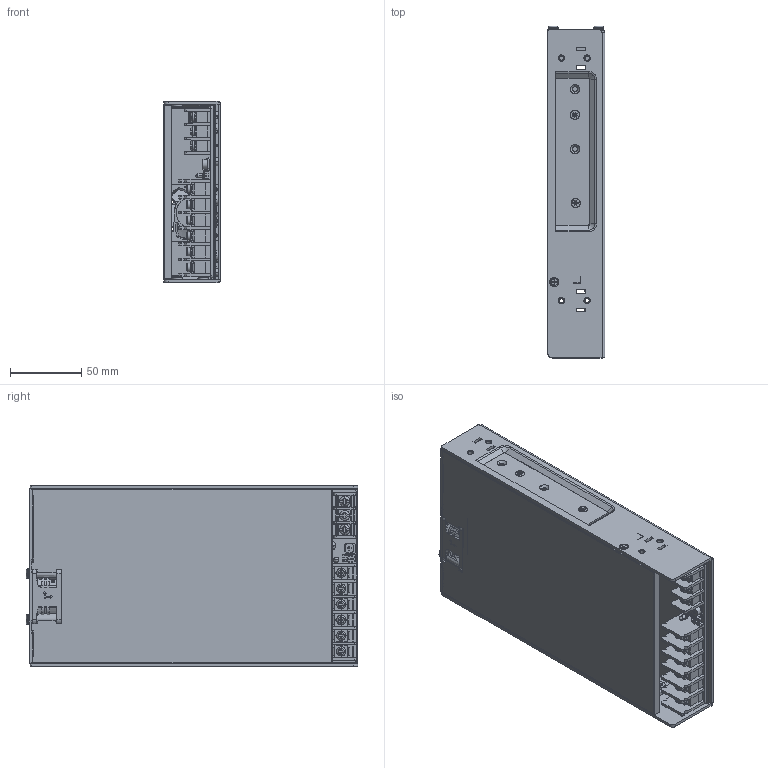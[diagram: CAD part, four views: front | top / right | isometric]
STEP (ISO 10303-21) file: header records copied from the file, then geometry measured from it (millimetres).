
FILE_DESCRIPTION(/* description */ (''),/* implementation_level */ '2;1');
FILE_NAME(/* name */ 'GSP550-1',/* time_stamp */ '2025-07-31T16:32:56+08:00',/* author */ (''),/* organization */ (''),/* preprocessor_version */ 'ST-DEVELOPER v16.5',/* originating_system */ '',/* authorisation */ '');
FILE_SCHEMA (('AUTOMOTIVE_DESIGN'));
Products named in the file (32): 01-ICPS-500W_ASM_38_ASM; CASE-500W_ASM_53_ASM; 21-366__ASM_31_ASM; 21-366__91; SCREW-M3__23; LZ_4X6_5_4; 21-365__ASM_36_ASM; 21-365__60; MYLAR-GPS500-TOP_24; SCREW-3004-R_4_9; LS_3-4_9; FAN-4020D_9; PCB-500W_ASM_109_ASM; PCB-500W_32; GW-GSP550W_V0220240204_ASM_2_ASM; PCB_ASM_16_ASM; LED1_ASM_10_ASM; LEDC2-2_54-3-1_11; CN2_ASM_10_ASM; PHD2_0_ASM_10_ASM; OPEN_CASCADE_STEP_TRANSL-214971; OPEN_CASCADE_STEP_TRANSL-219230; BHL5_03_10_00_12; BHP_5-6-11_0-08-T1-C_6; HS2-1_ASM_48_ASM; KM3X10_8; HS3-1_ASM_21_ASM; 1203377_CT_KM3X12_GB819-85_9; HS1-1_ASM_62_ASM; M3X6-S_GB9074_4_9; VR_1; MYLAR-GPS500_31
Assembly tree (40 placements, depth 7):
  01-ICPS-500W_ASM_38_ASM
    CASE-500W_ASM_53_ASM
      21-366__ASM_31_ASM
        21-366__91
        SCREW-M3__23  x3
        LZ_4X6_5_4
      21-365__ASM_36_ASM
        21-365__60
        MYLAR-GPS500-TOP_24
      SCREW-3004-R_4_9  x2
      LS_3-4_9  x2
      FAN-4020D_9
    PCB-500W_ASM_109_ASM
      PCB-500W_32
      GW-GSP550W_V0220240204_ASM_2_ASM
        PCB_ASM_16_ASM
          LED1_ASM_10_ASM
            LEDC2-2_54-3-1_11
          CN2_ASM_10_ASM
            PHD2_0_ASM_10_ASM
              OPEN_CASCADE_STEP_TRANSL-214971
              OPEN_CASCADE_STEP_TRANSL-219230
      BHL5_03_10_00_12
      BHP_5-6-11_0-08-T1-C_6
      HS2-1_ASM_48_ASM
        KM3X10_8
      HS3-1_ASM_21_ASM
        1203377_CT_KM3X12_GB819-85_9
      HS1-1_ASM_62_ASM
        KM3X10_8
        1203377_CT_KM3X12_GB819-85_9
      M3X6-S_GB9074_4_9  x4
      VR_1
    MYLAR-GPS500_31
Bounding box: 40.5 x 232.6 x 127 mm (x, y, z)
Volume: 80268 mm3; surface area: 346772 mm2
Topology: 28 solids, 45 shells, 3871 faces, 10644 edges, 6867 vertices
Faces by surface type: plane 2196, bspline 1675
Entity records: 156100 total; most frequent: CARTESIAN_POINT 95149, ORIENTED_EDGE 19120, EDGE_CURVE 9603, B_SPLINE_CURVE_WITH_KNOTS 7609, VERTEX_POINT 6205, EDGE_LOOP 3725, ADVANCED_FACE 3485, FACE_OUTER_BOUND 3485
